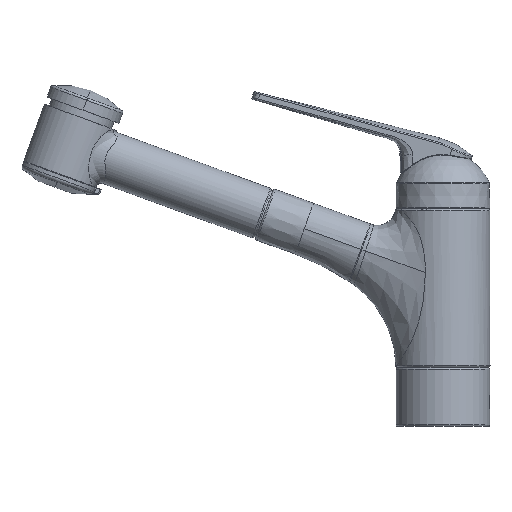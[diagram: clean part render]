
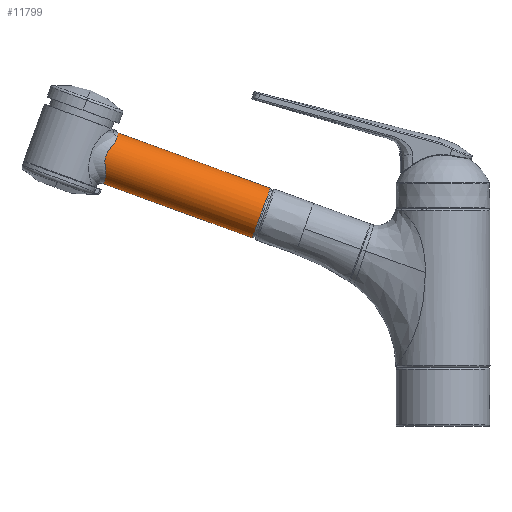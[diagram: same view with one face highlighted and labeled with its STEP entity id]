
A CAD part, top view. The second image highlights one B-rep face of the part: STEP entity #11799.
In plain terms, the highlighted cylindrical face has radius 15.5 mm (diameter 31 mm), a partial arc.
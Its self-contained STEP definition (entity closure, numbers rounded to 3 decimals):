
#3646=CARTESIAN_POINT('',(-106.832,115.667,0.));
#3647=DIRECTION('',(0.94,-0.342,0.));
#3648=DIRECTION('',(0.342,0.94,0.));
#3649=AXIS2_PLACEMENT_3D('',#3646,#3647,#3648);
#3669=DIRECTION('',(0.94,-0.342,0.));
#3670=VECTOR('',#3669,95.698);
#3671=CARTESIAN_POINT('',(-191.458,162.963,0.));
#3672=LINE('',#3671,#3670);
#3673=DIRECTION('',(0.94,-0.342,0.));
#3674=VECTOR('',#3673,93.198);
#3675=CARTESIAN_POINT('',(-199.711,132.977,
0.));
#3676=LINE('',#3675,#3674);
#3715=CARTESIAN_POINT('',(-191.458,162.963,0.));
#3754=CARTESIAN_POINT('',(-191.458,162.963,0.));
#3755=CARTESIAN_POINT('',(-191.458,162.963,
0.179));
#3756=CARTESIAN_POINT('',(-191.455,162.955,
0.547));
#3757=CARTESIAN_POINT('',(-191.443,162.918,1.125));
#3758=CARTESIAN_POINT('',(-191.426,162.853,1.726));
#3759=CARTESIAN_POINT('',(-191.405,162.758,2.346));
#3760=CARTESIAN_POINT('',(-191.384,162.634,2.977));
#3761=CARTESIAN_POINT('',(-191.364,162.479,3.614));
#3762=CARTESIAN_POINT('',(-191.348,162.295,4.252));
#3763=CARTESIAN_POINT('',(-191.339,162.084,4.887));
#3764=CARTESIAN_POINT('',(-191.339,161.846,5.514));
#3765=CARTESIAN_POINT('',(-191.35,161.585,6.128));
#3766=CARTESIAN_POINT('',(-191.373,161.304,6.725));
#3767=CARTESIAN_POINT('',(-191.41,161.004,7.305));
#3768=CARTESIAN_POINT('',(-191.444,160.794,7.677));
#3769=CARTESIAN_POINT('',(-191.464,160.687,7.86));
#3860=CARTESIAN_POINT('',(-191.464,160.687,7.86));
#3861=CARTESIAN_POINT('',(-191.483,160.582,8.039));
#3862=CARTESIAN_POINT('',(-191.528,160.368,8.39));
#3863=CARTESIAN_POINT('',(-191.616,160.037,8.897));
#3864=CARTESIAN_POINT('',(-191.722,159.697,9.385));
#3865=CARTESIAN_POINT('',(-191.849,159.347,9.855));
#3866=CARTESIAN_POINT('',(-191.995,158.989,10.306));
#3867=CARTESIAN_POINT('',(-192.161,158.623,10.74));
#3868=CARTESIAN_POINT('',(-192.346,158.248,11.157));
#3869=CARTESIAN_POINT('',(-192.553,157.864,11.558));
#3870=CARTESIAN_POINT('',(-192.78,157.47,11.943));
#3871=CARTESIAN_POINT('',(-193.029,157.066,12.313));
#3872=CARTESIAN_POINT('',(-193.3,156.651,12.668));
#3873=CARTESIAN_POINT('',(-193.596,156.222,13.009));
#3874=CARTESIAN_POINT('',(-193.916,155.777,13.337));
#3875=CARTESIAN_POINT('',(-194.264,155.314,13.65));
#3876=CARTESIAN_POINT('',(-194.64,154.828,13.95));
#3877=CARTESIAN_POINT('',(-195.044,154.318,14.233));
#3878=CARTESIAN_POINT('',(-195.472,153.784,14.497));
#3879=CARTESIAN_POINT('',(-195.907,153.236,14.731));
#3880=CARTESIAN_POINT('',(-196.324,152.696,14.928));
#3881=CARTESIAN_POINT('',(-196.701,152.185,15.085));
#3882=CARTESIAN_POINT('',(-197.029,151.711,15.206));
#3883=CARTESIAN_POINT('',(-197.313,151.269,15.298));
#3884=CARTESIAN_POINT('',(-197.557,150.853,15.368));
#3885=CARTESIAN_POINT('',(-197.769,150.456,15.42));
#3886=CARTESIAN_POINT('',(-197.954,150.071,15.458));
#3887=CARTESIAN_POINT('',(-198.115,149.691,15.484));
#3888=CARTESIAN_POINT('',(-198.256,149.313,15.498));
#3889=CARTESIAN_POINT('',(-198.379,148.928,15.502));
#3890=CARTESIAN_POINT('',(-198.487,148.531,15.495));
#3891=CARTESIAN_POINT('',(-198.578,148.121,15.477));
#3892=CARTESIAN_POINT('',(-198.653,147.696,15.447));
#3893=CARTESIAN_POINT('',(-198.712,147.251,15.404));
#3894=CARTESIAN_POINT('',(-198.754,146.778,15.345));
#3895=CARTESIAN_POINT('',(-198.778,146.267,15.267));
#3896=CARTESIAN_POINT('',(-198.783,145.71,15.166));
#3897=CARTESIAN_POINT('',(-198.767,145.099,15.035));
#3898=CARTESIAN_POINT('',(-198.729,144.429,14.866));
#3899=CARTESIAN_POINT('',(-198.671,143.708,14.656));
#3900=CARTESIAN_POINT('',(-198.599,142.966,14.407));
#3901=CARTESIAN_POINT('',(-198.524,142.236,14.126));
#3902=CARTESIAN_POINT('',(-198.452,141.541,13.824));
#3903=CARTESIAN_POINT('',(-198.39,140.888,13.506));
#3904=CARTESIAN_POINT('',(-198.339,140.276,13.176));
#3905=CARTESIAN_POINT('',(-198.3,139.703,12.835));
#3906=CARTESIAN_POINT('',(-198.273,139.164,12.483));
#3907=CARTESIAN_POINT('',(-198.259,138.656,12.12));
#3908=CARTESIAN_POINT('',(-198.257,138.175,11.747));
#3909=CARTESIAN_POINT('',(-198.267,137.72,11.361));
#3910=CARTESIAN_POINT('',(-198.289,137.288,10.962));
#3911=CARTESIAN_POINT('',(-198.322,136.878,10.55));
#3912=CARTESIAN_POINT('',(-198.367,136.487,10.124));
#3913=CARTESIAN_POINT('',(-198.422,136.116,9.681));
#3914=CARTESIAN_POINT('',(-198.488,135.762,9.22));
#3915=CARTESIAN_POINT('',(-198.564,135.426,8.739));
#3916=CARTESIAN_POINT('',(-198.65,135.107,8.236));
#3917=CARTESIAN_POINT('',(-198.745,134.805,7.709));
#3918=CARTESIAN_POINT('',(-198.847,134.52,7.155));
#3919=CARTESIAN_POINT('',(-198.957,134.254,6.574));
#3920=CARTESIAN_POINT('',(-199.069,134.009,5.966));
#3921=CARTESIAN_POINT('',(-199.182,133.786,5.334));
#3922=CARTESIAN_POINT('',(-199.289,133.59,4.685));
#3923=CARTESIAN_POINT('',(-199.387,133.42,4.025));
#3924=CARTESIAN_POINT('',(-199.444,133.325,3.584));
#3925=CARTESIAN_POINT('',(-199.47,133.282,3.362));
#4099=CARTESIAN_POINT('',(-199.47,133.282,3.362));
#4100=CARTESIAN_POINT('',(-199.496,133.239,3.14));
#4101=CARTESIAN_POINT('',(-199.545,133.162,2.693));
#4102=CARTESIAN_POINT('',(-199.609,133.075,2.016));
#4103=CARTESIAN_POINT('',(-199.66,133.015,1.34));
#4104=CARTESIAN_POINT('',(-199.695,132.982,
0.666));
#4105=CARTESIAN_POINT('',(-199.708,132.976,
0.221));
#4106=CARTESIAN_POINT('',(-199.711,132.977,
0.));
#4199=CARTESIAN_POINT('',(-199.711,132.977,
0.));
#4928=VERTEX_POINT('',#4199);
#4932=VERTEX_POINT('',#3860);
#4933=VERTEX_POINT('',#3925);
#4935=VERTEX_POINT('',#3715);
#4936=CARTESIAN_POINT('',(-112.134,101.102,0.));
#4937=CARTESIAN_POINT('',(-101.531,130.232,0.));
#4938=VERTEX_POINT('',#4936);
#4939=VERTEX_POINT('',#4937);
#11781=CARTESIAN_POINT('',(-78.736,105.441,0.));
#11782=DIRECTION('',(-0.94,0.342,0.));
#11783=DIRECTION('',(0.342,0.94,0.));
#11784=AXIS2_PLACEMENT_3D('',#11781,#11782,#11783);
#11785=CYLINDRICAL_SURFACE('',#11784,15.5);
#11786=ORIENTED_EDGE('',*,*,#11739,.T.);
#11788=ORIENTED_EDGE('',*,*,#11787,.F.);
#11790=ORIENTED_EDGE('',*,*,#11789,.F.);
#11792=ORIENTED_EDGE('',*,*,#11791,.F.);
#11794=ORIENTED_EDGE('',*,*,#11793,.F.);
#11796=ORIENTED_EDGE('',*,*,#11795,.T.);
#11797=EDGE_LOOP('',(#11786,#11788,#11790,#11792,#11794,#11796));
#11798=FACE_OUTER_BOUND('',#11797,.F.);
#3650=CIRCLE('',#3649,15.5);
#3770=B_SPLINE_CURVE_WITH_KNOTS('',3,(#3754,#3755,#3756,#3757,#3758,#3759,#3760,
#3761,#3762,#3763,#3764,#3765,#3766,#3767,#3768,#3769),.UNSPECIFIED.,.F.,.F.,(4,
1,1,1,1,1,1,1,1,1,1,1,1,4),(0.,0.077,0.154,
0.231,0.308,0.385,0.462,
0.538,0.615,0.692,0.769,
0.846,0.923,1.),.UNSPECIFIED.);
#3926=B_SPLINE_CURVE_WITH_KNOTS('',3,(#3860,#3861,#3862,#3863,#3864,#3865,#3866,
#3867,#3868,#3869,#3870,#3871,#3872,#3873,#3874,#3875,#3876,#3877,#3878,#3879,
#3880,#3881,#3882,#3883,#3884,#3885,#3886,#3887,#3888,#3889,#3890,#3891,#3892,
#3893,#3894,#3895,#3896,#3897,#3898,#3899,#3900,#3901,#3902,#3903,#3904,#3905,
#3906,#3907,#3908,#3909,#3910,#3911,#3912,#3913,#3914,#3915,#3916,#3917,#3918,
#3919,#3920,#3921,#3922,#3923,#3924,#3925),.UNSPECIFIED.,.F.,.F.,(4,1,1,1,1,1,1,
1,1,1,1,1,1,1,1,1,1,1,1,1,1,1,1,1,1,1,1,1,1,1,1,1,1,1,1,1,1,1,1,1,1,1,1,1,1,1,1,
1,1,1,1,1,1,1,1,1,1,1,1,1,1,1,1,4),(0.,0.016,0.032,
0.048,0.063,0.079,0.095,
0.111,0.127,0.143,0.159,
0.175,0.19,0.206,0.222,
0.238,0.254,0.27,0.286,
0.302,0.317,0.333,0.349,
0.365,0.381,0.397,0.413,
0.429,0.444,0.46,0.476,
0.492,0.508,0.524,0.54,
0.556,0.571,0.587,0.603,
0.619,0.635,0.651,0.667,
0.683,0.698,0.714,0.73,
0.746,0.762,0.778,0.794,
0.81,0.825,0.841,0.857,
0.873,0.889,0.905,0.921,
0.937,0.952,0.968,0.984,1.),
.UNSPECIFIED.);
#4107=B_SPLINE_CURVE_WITH_KNOTS('',3,(#4099,#4100,#4101,#4102,#4103,#4104,#4105,
#4106),.UNSPECIFIED.,.F.,.F.,(4,1,1,1,1,4),(0.,0.2,0.4,0.6,0.8,1.),
.UNSPECIFIED.);
#11739=EDGE_CURVE('',#4939,#4938,#3650,.T.);
#11787=EDGE_CURVE('',#4928,#4938,#3676,.T.);
#11789=EDGE_CURVE('',#4933,#4928,#4107,.T.);
#11791=EDGE_CURVE('',#4932,#4933,#3926,.T.);
#11793=EDGE_CURVE('',#4935,#4932,#3770,.T.);
#11795=EDGE_CURVE('',#4935,#4939,#3672,.T.);
#11799=ADVANCED_FACE('',(#11798),#11785,.T.);
